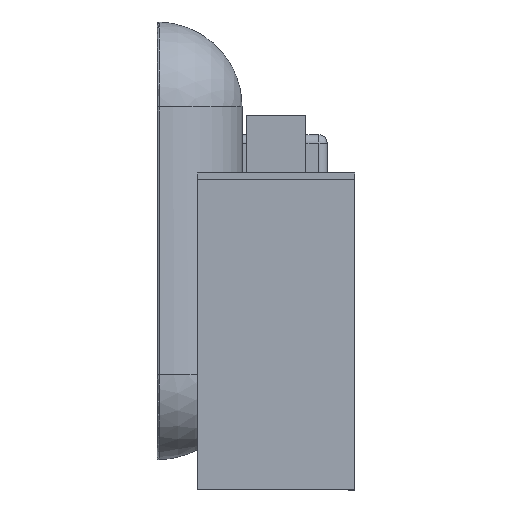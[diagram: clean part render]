
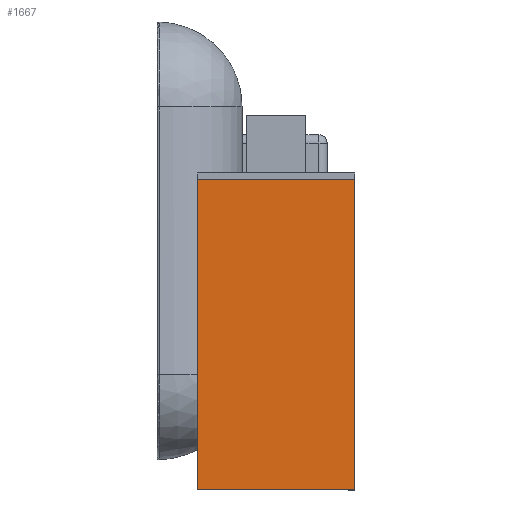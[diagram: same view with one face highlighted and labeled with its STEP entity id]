
A CAD part, left-side view. The second image highlights one B-rep face of the part: STEP entity #1667.
In plain terms, the highlighted planar face has unit normal (-1, 0, 0).
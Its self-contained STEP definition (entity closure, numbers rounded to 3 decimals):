
#15 = ORIENTED_EDGE ( 'NONE', *, *, #2589, .T. ) ;
#108 = VERTEX_POINT ( 'NONE', #2622 ) ;
#224 = CARTESIAN_POINT ( 'NONE',  ( -151.792, 18.45, 11.407 ) ) ;
#410 = CARTESIAN_POINT ( 'NONE',  ( -151.792, -18.55, 11.407 ) ) ;
#595 = CARTESIAN_POINT ( 'NONE',  ( -151.792, 6.117, -37.259 ) ) ;
#618 = CARTESIAN_POINT ( 'NONE',  ( -151.792, 18.45, -37.259 ) ) ;
#817 = CARTESIAN_POINT ( 'NONE',  ( -151.792, 18.45, 35.741 ) ) ;
#842 = CARTESIAN_POINT ( 'NONE',  ( -151.792, 18.45, -12.926 ) ) ;
#895 = FACE_OUTER_BOUND ( 'NONE', #2743, .T. ) ;
#1016 = B_SPLINE_CURVE_WITH_KNOTS ( 'NONE', 3,
 ( #817, #1643, #3069, #2785 ),
 .UNSPECIFIED., .F., .F.,
 ( 4, 4 ),
 ( 0., 1. ),
 .UNSPECIFIED. ) ;
#1046 = PLANE ( 'NONE',  #1747 ) ;
#1298 = B_SPLINE_CURVE_WITH_KNOTS ( 'NONE', 3,
 ( #3106, #224, #842, #1380 ),
 .UNSPECIFIED., .F., .F.,
 ( 4, 4 ),
 ( 0., 1. ),
 .UNSPECIFIED. ) ;
#1376 = ORIENTED_EDGE ( 'NONE', *, *, #2584, .F. ) ;
#1380 = CARTESIAN_POINT ( 'NONE',  ( -151.792, 18.45, -37.259 ) ) ;
#1385 = CARTESIAN_POINT ( 'NONE',  ( -151.792, 18.45, -37.259 ) ) ;
#1457 = VERTEX_POINT ( 'NONE', #2426 ) ;
#1549 = B_SPLINE_CURVE_WITH_KNOTS ( 'NONE', 3,
 ( #2047, #1925, #410, #1908 ),
 .UNSPECIFIED., .F., .F.,
 ( 4, 4 ),
 ( 0., 1. ),
 .UNSPECIFIED. ) ;
#1643 = CARTESIAN_POINT ( 'NONE',  ( -151.792, 6.117, 35.741 ) ) ;
#1667 = ADVANCED_FACE ( 'NONE', ( #895 ), #1046, .F. ) ;
#1713 = CARTESIAN_POINT ( 'NONE',  ( -151.792, -6.217, -37.259 ) ) ;
#1747 = AXIS2_PLACEMENT_3D ( 'NONE', #3074, #2788, #3597 ) ;
#1803 = ORIENTED_EDGE ( 'NONE', *, *, #1855, .T. ) ;
#1842 = ORIENTED_EDGE ( 'NONE', *, *, #2503, .F. ) ;
#1855 = EDGE_CURVE ( 'NONE', #1457, #108, #1549, .T. ) ;
#1908 = CARTESIAN_POINT ( 'NONE',  ( -151.792, -18.55, 35.741 ) ) ;
#1925 = CARTESIAN_POINT ( 'NONE',  ( -151.792, -18.55, -12.926 ) ) ;
#1988 = B_SPLINE_CURVE_WITH_KNOTS ( 'NONE', 3,
 ( #3302, #1713, #595, #618 ),
 .UNSPECIFIED., .F., .F.,
 ( 4, 4 ),
 ( 0., 1. ),
 .UNSPECIFIED. ) ;
#2047 = CARTESIAN_POINT ( 'NONE',  ( -151.792, -18.55, -37.259 ) ) ;
#2238 = VERTEX_POINT ( 'NONE', #1385 ) ;
#2426 = CARTESIAN_POINT ( 'NONE',  ( -151.792, -18.55, -37.259 ) ) ;
#2503 = EDGE_CURVE ( 'NONE', #1457, #2238, #1988, .T. ) ;
#2538 = CARTESIAN_POINT ( 'NONE',  ( -151.792, 18.45, 35.741 ) ) ;
#2584 = EDGE_CURVE ( 'NONE', #3563, #108, #1016, .T. ) ;
#2589 = EDGE_CURVE ( 'NONE', #3563, #2238, #1298, .T. ) ;
#2622 = CARTESIAN_POINT ( 'NONE',  ( -151.792, -18.55, 35.741 ) ) ;
#2743 = EDGE_LOOP ( 'NONE', ( #15, #1842, #1803, #1376 ) ) ;
#2785 = CARTESIAN_POINT ( 'NONE',  ( -151.792, -18.55, 35.741 ) ) ;
#2788 = DIRECTION ( 'NONE',  ( 1., 0., 0. ) ) ;
#3069 = CARTESIAN_POINT ( 'NONE',  ( -151.792, -6.217, 35.741 ) ) ;
#3074 = CARTESIAN_POINT ( 'NONE',  ( -151.792, -18.55, -37.259 ) ) ;
#3106 = CARTESIAN_POINT ( 'NONE',  ( -151.792, 18.45, 35.741 ) ) ;
#3302 = CARTESIAN_POINT ( 'NONE',  ( -151.792, -18.55, -37.259 ) ) ;
#3563 = VERTEX_POINT ( 'NONE', #2538 ) ;
#3597 = DIRECTION ( 'NONE',  ( 0., 0., 1. ) ) ;
